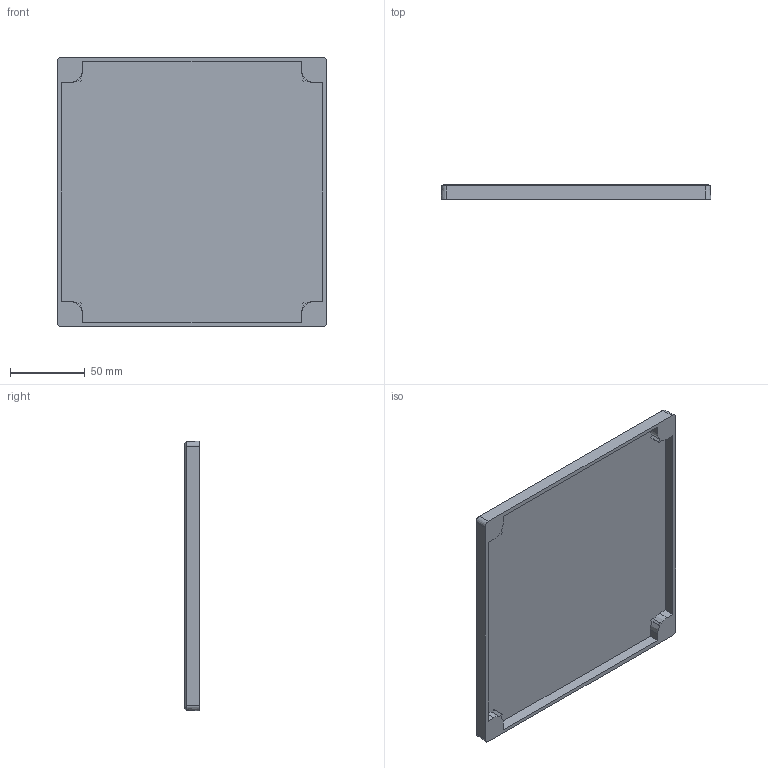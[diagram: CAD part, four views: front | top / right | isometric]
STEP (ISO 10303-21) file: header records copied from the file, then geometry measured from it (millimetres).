
FILE_DESCRIPTION (( 'STEP AP203' ), '1' );
FILE_NAME ('FIBOX_MNX17510C.STEP', '2005-06-30T06:47:27', ( ' ' ), ( ' ' ), 'SwSTEP 2.0', 'SolidWorks 2005143', '' );
FILE_SCHEMA (( 'CONFIG_CONTROL_DESIGN' ));
Length unit declared in the file: millimetre
Products named in the file (1): FIBOX_MNX17510C
Bounding box: 180 x 10 x 180 mm (x, y, z)
Volume: 100281.2 mm3; surface area: 77254.4 mm2
Topology: 1 solids, 1 shells, 72 faces, 184 edges, 120 vertices
Faces by surface type: plane 40, cone 20, cylinder 12
Entity records: 2277 total; most frequent: CARTESIAN_POINT 425, DIRECTION 374, ORIENTED_EDGE 368, EDGE_CURVE 184, AXIS2_PLACEMENT_3D 133, VERTEX_POINT 120, LINE 108, VECTOR 108
